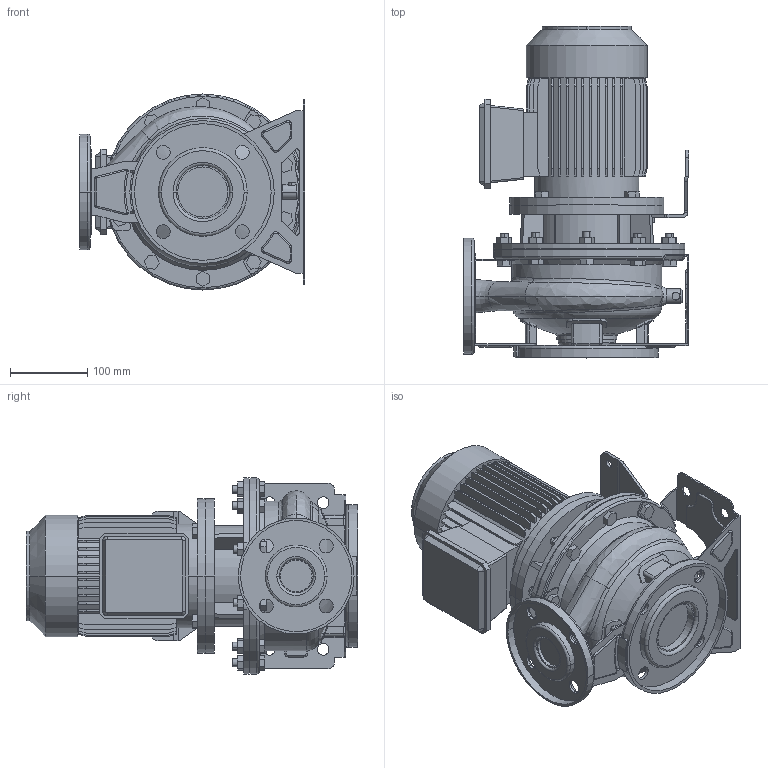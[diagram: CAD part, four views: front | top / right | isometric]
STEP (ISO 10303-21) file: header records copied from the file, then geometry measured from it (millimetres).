
FILE_DESCRIPTION((''),'2;1');
FILE_NAME('3S4_40-160_0_55_IE1_ASM','2016-09-23T',('rosa'),('"Ebara Pumps Europe +39.444.706811"'),'PRO/ENGINEER BY PARAMETRIC TECHNOLOGY CORPORATION, 2012130','PRO/ENGINEER BY PARAMETRIC TECHNOLOGY CORPORATION, 2012130','');
FILE_SCHEMA(('AUTOMOTIVE_DESIGN { 1 0 10303 214 1 1 1 1 }'));
Length unit declared in the file: millimetre
Products named in the file (11): MOTORE_80_0_55_KW_4POLI_B5; SUPPORTO_3S_190_80; SOSTEGNO_3S_72019; CORPO_40-160_AF0; ASP_40-160; FLANGIA_DIN_65; MAND_40-160; FLANGIA_DIN_40; BASE_3M_40-160; CORPO_SALDATO_40-160_ASM; 3S4_40-160_0_55_IE1_ASM
Assembly tree (10 placements, depth 3):
  3S4_40-160_0_55_IE1_ASM
    MOTORE_80_0_55_KW_4POLI_B5
    SUPPORTO_3S_190_80
    SOSTEGNO_3S_72019
    CORPO_SALDATO_40-160_ASM
      CORPO_40-160_AF0
      ASP_40-160
      FLANGIA_DIN_65
      MAND_40-160
      FLANGIA_DIN_40
      BASE_3M_40-160
Bounding box: 292 x 430 x 254 mm (x, y, z)
Volume: 9012892.2 mm3; surface area: 1057453 mm2
Topology: 12 solids, 12 shells, 1097 faces, 2825 edges, 1853 vertices
Faces by surface type: plane 678, cylinder 301, torus 54, bspline 34, cone 24, sphere 6
Entity records: 46530 total; most frequent: CARTESIAN_POINT 8800, DIRECTION 5775, ORIENTED_EDGE 5650, EDGE_CURVE 2825, PRESENTATION_STYLE_ASSIGNMENT 2696, STYLED_ITEM 2696, CURVE_STYLE 2685, AXIS2_PLACEMENT_3D 1963
